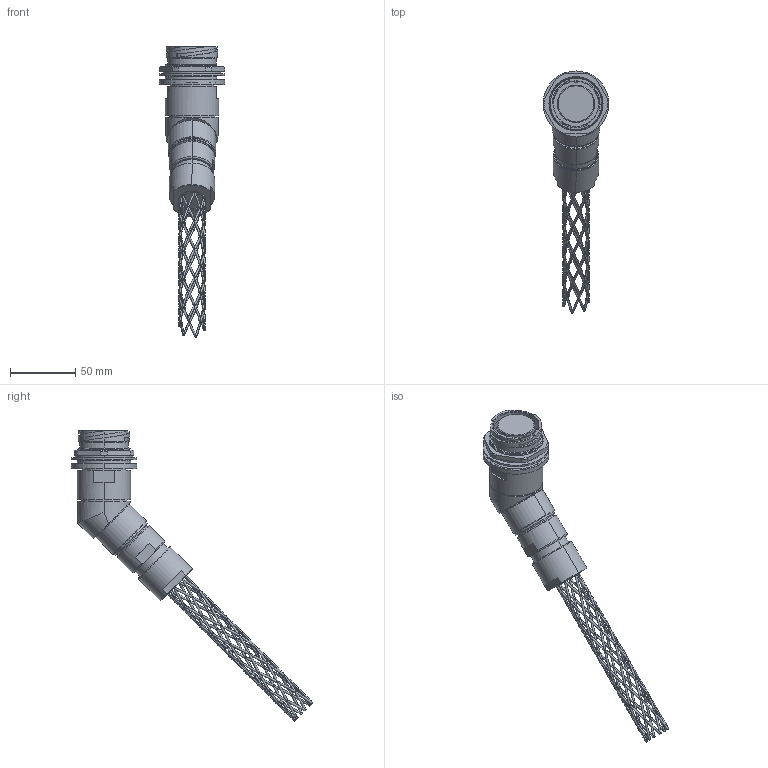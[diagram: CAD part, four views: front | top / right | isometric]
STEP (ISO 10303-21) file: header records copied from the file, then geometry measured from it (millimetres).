
FILE_DESCRIPTION (( 'STEP AP214' ), '1' );
FILE_NAME ('QLINK45-RJBX-23XX-GXXX-RA.STEP', '2025-12-17T16:40:19', ( '' ), ( '' ), 'SwSTEP 2.0', 'SolidWorks 2024', '' );
FILE_SCHEMA (( 'AUTOMOTIVE_DESIGN' ));
Length unit declared in the file: millimetre
Products named in the file (1): QLINK45-RJBX-23XX-GXXX-RA
Bounding box: 50.55 x 185.84 x 223.14 mm (x, y, z)
Volume: 158834.5 mm3; surface area: 41159 mm2
Topology: 2 solids, 2 shells, 500 faces, 1388 edges, 803 vertices
Faces by surface type: bspline 266, cylinder 89, plane 73, cone 49, torus 23
Entity records: 129634 total; most frequent: CARTESIAN_POINT 119915, ORIENTED_EDGE 2776, EDGE_CURVE 1388, DIRECTION 1299, VERTEX_POINT 803, AXIS2_PLACEMENT_3D 556, EDGE_LOOP 529, FACE_OUTER_BOUND 500
